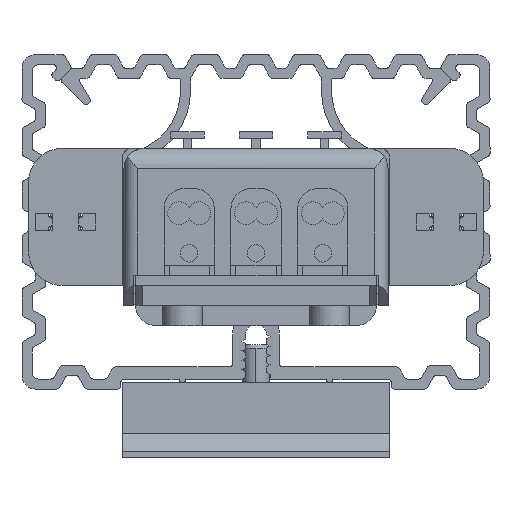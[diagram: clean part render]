
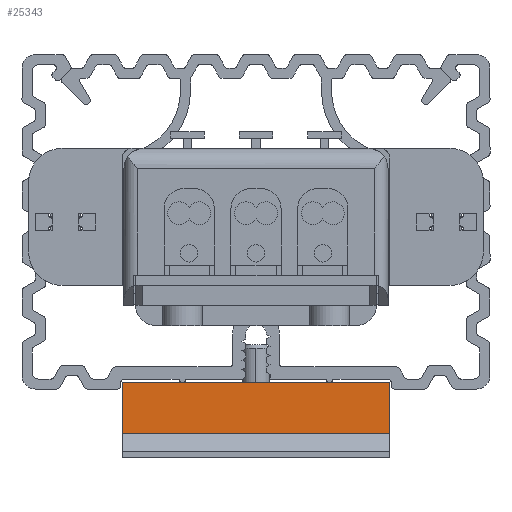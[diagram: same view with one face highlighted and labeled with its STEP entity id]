
A CAD part, front view. The second image highlights one B-rep face of the part: STEP entity #25343.
In plain terms, the highlighted planar face has unit normal (0, -1, 0).
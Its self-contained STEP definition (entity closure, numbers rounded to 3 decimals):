
#8100 = CARTESIAN_POINT ( 'NONE',  ( 20., -14.75, -6.7 ) ) ;
#8110 = CARTESIAN_POINT ( 'NONE',  ( -20., -14.75, -6.7 ) ) ;
#8140 = CARTESIAN_POINT ( 'NONE',  ( -20., -14.75, 1. ) ) ;
#8141 = DIRECTION ( 'NONE',  ( 0., 0., -1. ) ) ;
#8142 = VECTOR ( 'NONE', #8141, 1000. ) ;
#8143 = CARTESIAN_POINT ( 'NONE',  ( -20., -14.75, -6.7 ) ) ;
#8144 = LINE ( 'NONE', #8143, #8142 ) ;
#8151 = DIRECTION ( 'NONE',  ( 1., 0., 0. ) ) ;
#8152 = DIRECTION ( 'NONE',  ( 0., -1., 0. ) ) ;
#8153 = CARTESIAN_POINT ( 'NONE',  ( 20., -14.75, -1.4 ) ) ;
#8154 = AXIS2_PLACEMENT_3D ( 'NONE', #8153, #8152, #8151 ) ;
#8155 = PLANE ( 'NONE',  #8154 ) ;
#8156 = FACE_OUTER_BOUND ( 'NONE', #25347, .T. ) ;
#8161 = DIRECTION ( 'NONE',  ( -1., 0., 0. ) ) ;
#8162 = VECTOR ( 'NONE', #8161, 1000. ) ;
#8163 = CARTESIAN_POINT ( 'NONE',  ( 20., -14.75, -6.7 ) ) ;
#8164 = LINE ( 'NONE', #8163, #8162 ) ;
#8197 = DIRECTION ( 'NONE',  ( -1., 0., 0. ) ) ;
#8198 = VECTOR ( 'NONE', #8197, 1000. ) ;
#8199 = CARTESIAN_POINT ( 'NONE',  ( 0., -14.75, 1. ) ) ;
#8204 = LINE ( 'NONE', #8199, #8198 ) ;
#8214 = CARTESIAN_POINT ( 'NONE',  ( 20., -14.75, 1. ) ) ;
#8215 = DIRECTION ( 'NONE',  ( 0., 0., 1. ) ) ;
#8216 = VECTOR ( 'NONE', #8215, 1000. ) ;
#8217 = CARTESIAN_POINT ( 'NONE',  ( 20., -14.75, -6.7 ) ) ;
#8218 = LINE ( 'NONE', #8217, #8216 ) ;
#25319 = VERTEX_POINT ( 'NONE', #8110 ) ;
#25336 = VERTEX_POINT ( 'NONE', #8100 ) ;
#25339 = EDGE_CURVE ( 'NONE', #25336, #25319, #8164, .T. ) ;
#25343 = ADVANCED_FACE ( 'NONE', ( #8156 ), #8155, .T. ) ;
#25347 = EDGE_LOOP ( 'NONE', ( #25352, #25404, #25407, #25417 ) ) ;
#25352 = ORIENTED_EDGE ( 'NONE', *, *, #25353, .T. ) ;
#25353 = EDGE_CURVE ( 'NONE', #25356, #25319, #8144, .T. ) ;
#25356 = VERTEX_POINT ( 'NONE', #8140 ) ;
#25404 = ORIENTED_EDGE ( 'NONE', *, *, #25339, .F. ) ;
#25407 = ORIENTED_EDGE ( 'NONE', *, *, #25409, .T. ) ;
#25409 = EDGE_CURVE ( 'NONE', #25336, #25411, #8218, .T. ) ;
#25411 = VERTEX_POINT ( 'NONE', #8214 ) ;
#25417 = ORIENTED_EDGE ( 'NONE', *, *, #25419, .T. ) ;
#25419 = EDGE_CURVE ( 'NONE', #25411, #25356, #8204, .T. ) ;
